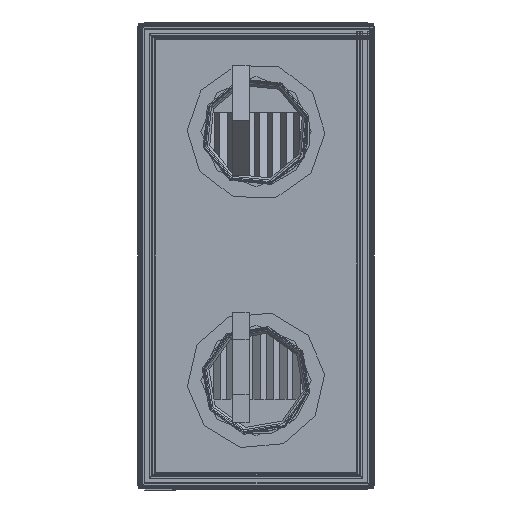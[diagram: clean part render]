
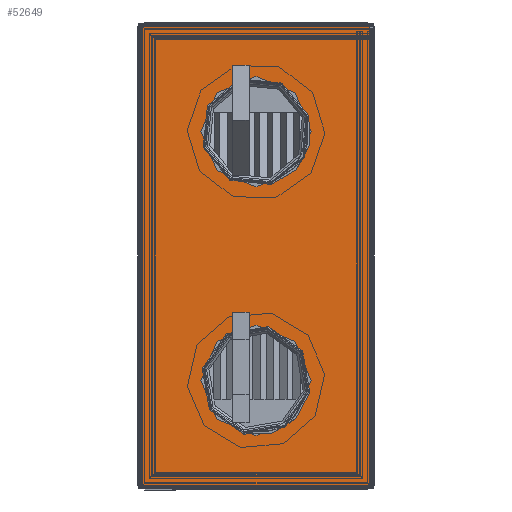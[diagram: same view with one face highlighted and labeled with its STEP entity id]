
A CAD part, left-side view. The second image highlights one B-rep face of the part: STEP entity #52649.
In plain terms, the highlighted planar face has unit normal (-1, 0, 0) as drawn and (0, 0, -1) by its records, which use the part's own axes.
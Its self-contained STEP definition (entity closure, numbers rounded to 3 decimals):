
#618=CIRCLE('',#57714,100.);
#620=CIRCLE('',#57717,100.);
#2155=FACE_BOUND('',#6921,.T.);
#2156=FACE_BOUND('',#6922,.T.);
#4263=FACE_OUTER_BOUND('',#6920,.T.);
#6920=EDGE_LOOP('',(#45687,#45688,#45689,#45690));
#6921=EDGE_LOOP('',(#45691));
#6922=EDGE_LOOP('',(#45692));
#13682=LINE('',#86204,#19198);
#13686=LINE('',#86212,#19202);
#13689=LINE('',#86218,#19205);
#13692=LINE('',#86223,#19208);
#19198=VECTOR('',#70788,10.);
#19202=VECTOR('',#70794,10.);
#19205=VECTOR('',#70799,10.);
#19208=VECTOR('',#70804,10.);
#24453=VERTEX_POINT('',#86190);
#24455=VERTEX_POINT('',#86196);
#24457=VERTEX_POINT('',#86202);
#24458=VERTEX_POINT('',#86203);
#24461=VERTEX_POINT('',#86211);
#24463=VERTEX_POINT('',#86217);
#31630=EDGE_CURVE('',#24453,#24453,#618,.T.);
#31633=EDGE_CURVE('',#24455,#24455,#620,.T.);
#31636=EDGE_CURVE('',#24457,#24458,#13682,.T.);
#31640=EDGE_CURVE('',#24461,#24457,#13686,.T.);
#31643=EDGE_CURVE('',#24463,#24461,#13689,.T.);
#31646=EDGE_CURVE('',#24458,#24463,#13692,.T.);
#45687=ORIENTED_EDGE('',*,*,#31646,.F.);
#45688=ORIENTED_EDGE('',*,*,#31636,.F.);
#45689=ORIENTED_EDGE('',*,*,#31640,.F.);
#45690=ORIENTED_EDGE('',*,*,#31643,.F.);
#45691=ORIENTED_EDGE('',*,*,#31630,.T.);
#45692=ORIENTED_EDGE('',*,*,#31633,.T.);
#50193=PLANE('',#57724);
#52649=ADVANCED_FACE('',(#4263,#2155,#2156),#50193,.F.);
#57714=AXIS2_PLACEMENT_3D('',#86191,#70774,#70775);
#57717=AXIS2_PLACEMENT_3D('',#86197,#70781,#70782);
#57724=AXIS2_PLACEMENT_3D('',#86226,#70808,#70809);
#70774=DIRECTION('center_axis',(0.,0.,1.));
#70775=DIRECTION('ref_axis',(-1.,0.,0.));
#70781=DIRECTION('center_axis',(0.,0.,1.));
#70782=DIRECTION('ref_axis',(-1.,0.,0.));
#70788=DIRECTION('',(0.,-1.,0.));
#70794=DIRECTION('',(-1.,0.,0.));
#70799=DIRECTION('',(0.,1.,0.));
#70804=DIRECTION('',(1.,0.,0.));
#70808=DIRECTION('center_axis',(0.,0.,1.));
#70809=DIRECTION('ref_axis',(1.,0.,0.));
#86190=CARTESIAN_POINT('',(728.3,197.5,0.));
#86191=CARTESIAN_POINT('Origin',(628.3,197.5,0.));
#86196=CARTESIAN_POINT('',(277.2,197.5,0.));
#86197=CARTESIAN_POINT('Origin',(177.2,197.5,0.));
#86202=CARTESIAN_POINT('',(-12.8,403.05,0.));
#86203=CARTESIAN_POINT('',(-12.8,-8.05,0.));
#86204=CARTESIAN_POINT('',(-12.8,403.05,0.));
#86211=CARTESIAN_POINT('',(818.3,403.05,0.));
#86212=CARTESIAN_POINT('',(818.3,403.05,0.));
#86217=CARTESIAN_POINT('',(818.3,-8.05,0.));
#86218=CARTESIAN_POINT('',(818.3,-8.05,0.));
#86223=CARTESIAN_POINT('',(-12.8,-8.05,0.));
#86226=CARTESIAN_POINT('Origin',(402.75,197.5,0.));
